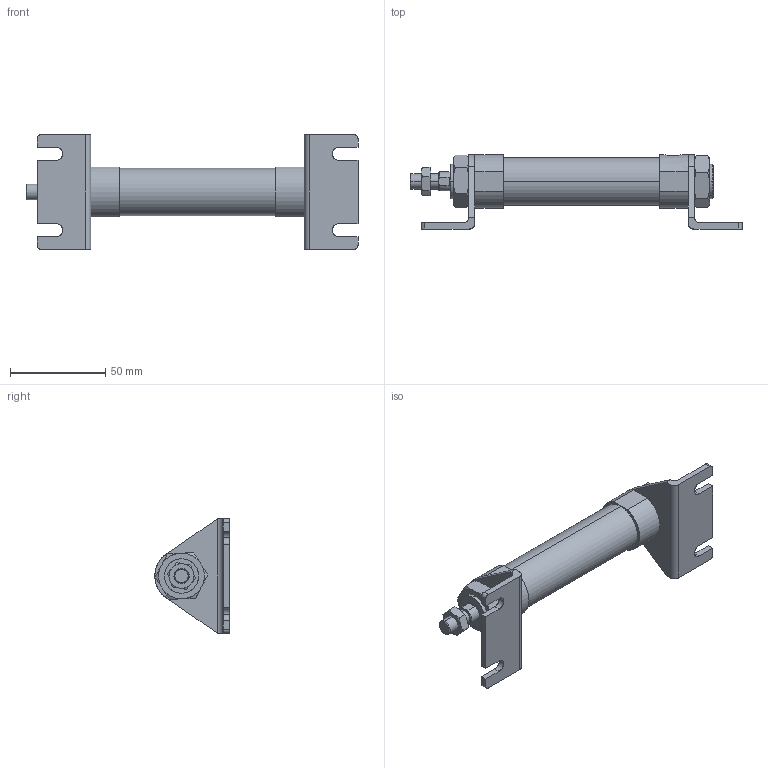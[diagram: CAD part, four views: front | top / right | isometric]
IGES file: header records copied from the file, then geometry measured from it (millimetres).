
Start section: SolidWorks IGES file using analytic representation for surfaces
Global section: file name: C:\Users\Toshiba\Desktop\J#1-20-15(25)-L.IGS; native system: SolidWorks 2014; preprocessor: SolidWorks 2014; author: Toshiba; date: 160310.084454; units: millimetre
Bounding box: 174.2 x 39 x 60 mm (x, y, z)
Surface area: 28851 mm2 (no closed solid volume)
Topology: 0 solids, 0 shells, 165 faces, 2566 edges, 2566 vertices
Faces by surface type: bspline 109, revolution 56
